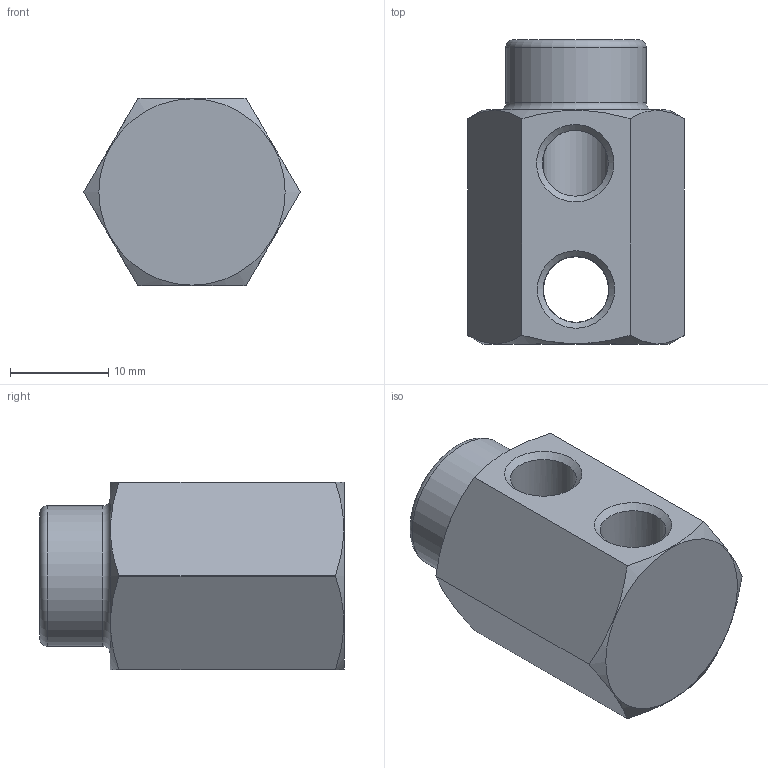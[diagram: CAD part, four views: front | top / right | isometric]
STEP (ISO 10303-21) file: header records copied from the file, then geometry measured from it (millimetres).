
FILE_DESCRIPTION(/* description */ (''),/* implementation_level */ '2;1');
FILE_NAME(/* name */ 'C:/Users/drich/Desktop/16H v3.step',/* time_stamp */ '2020-01-14T20:32:13-06:00',/* author */ (''),/* organization */ (''),/* preprocessor_version */ 'ST-DEVELOPER v18',/* originating_system */ 'Autodesk Translation Framework v8.12.0.6',/* authorisation */ '');
FILE_SCHEMA (('AUTOMOTIVE_DESIGN { 1 0 10303 214 3 1 1 }'));
Length unit declared in the file: inch
Products named in the file (2): 16H; 16H_1
Assembly tree (1 placements, depth 2):
  16H
    16H_1
Bounding box: 22 x 30.94 x 19.05 mm (x, y, z)
Volume: 7012.3 mm3; surface area: 3222.2 mm2
Topology: 1 solids, 1 shells, 33 faces, 93 edges, 62 vertices
Faces by surface type: cylinder 12, cone 10, plane 9, torus 2
Full cylindrical faces by diameter (mm): 4.064 x1, 6.697 x4, 14.275 x1
Entity records: 1260 total; most frequent: CARTESIAN_POINT 345, DIRECTION 187, ORIENTED_EDGE 186, EDGE_CURVE 93, AXIS2_PLACEMENT_3D 81, VERTEX_POINT 62, CIRCLE 45, EDGE_LOOP 39
